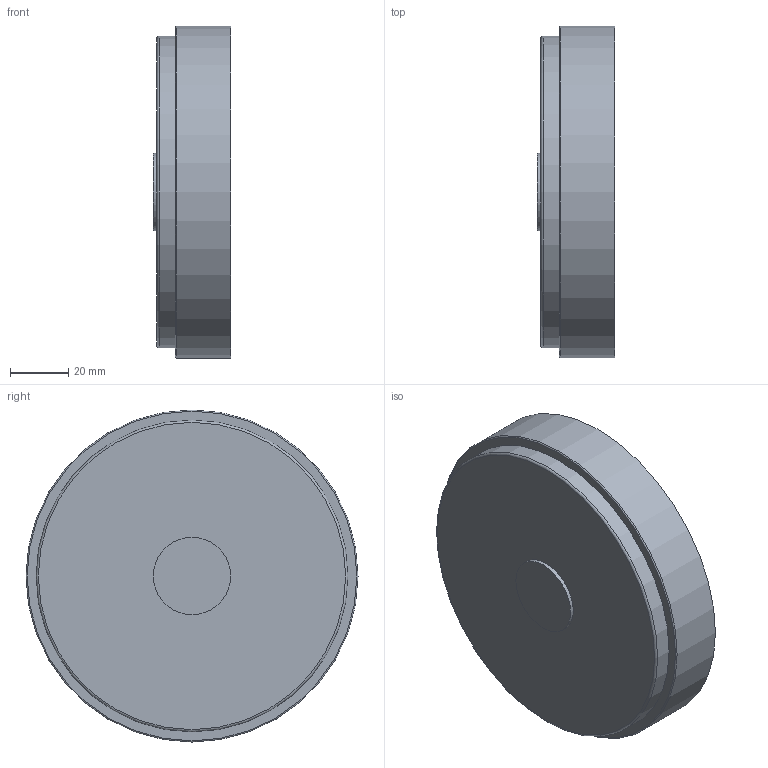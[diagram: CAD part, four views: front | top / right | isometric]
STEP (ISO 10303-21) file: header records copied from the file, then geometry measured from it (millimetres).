
FILE_DESCRIPTION(/* description */ ('VIC STRENGTHIN CAP No E496 w/Tap 1/2 inch BSPT (Concentric)','CAx-IF Rec.Pracs.---Representation and Presentation of Product Manufacturing Information (PMI)---4.0---2014-10-13'),/* implementation_level */ '2;1');
FILE_NAME(/* name */ 'C:\Users\Vjadhav\AppData\Roaming\Autodesk\ApplicationPlugins\Back Up\Victaulic_SS-StrengThin 100_Cap With Tap_No E496 (ST1)\Victaulic_SS-StrengThin 100_Cap With Tap_No E496 (ST1)_04.0x0.75 (100x20).stp',/* time_stamp */ '2020-07-07T18:46:55+05:00',/* author */ ('jheald'),/* organization */ ('Victaulic'),/* preprocessor_version */ 'ST-DEVELOPER v17.2',/* originating_system */ 'Autodesk Inventor 2019',/* authorisation */ '');
FILE_SCHEMA (('AUTOMOTIVE_DESIGN { 1 0 10303 214 3 1 1 }','AP242_MANAGED_MODEL_BASED_3D_ENGINEERING_MIM_LF { 1 0 10303 442 1 1 4 }'));
Length unit declared in the file: inch
Products named in the file (1): E496-04.0x0.75
Bounding box: 26.67 x 114.3 x 114.3 mm (x, y, z)
Volume: 174287.2 mm3; surface area: 32537 mm2
Topology: 1 solids, 1 shells, 11 faces, 26 edges, 20 vertices
Faces by surface type: plane 5, cylinder 4, torus 2
Full cylindrical faces by diameter (mm): 26.67 x1, 102.26 x1, 107.315 x1, 114.3 x1
Entity records: 489 total; most frequent: DIRECTION 98, CARTESIAN_POINT 75, ORIENTED_EDGE 52, AXIS2_PLACEMENT_3D 47, EDGE_CURVE 26, CIRCLE 22, VERTEX_POINT 20, EDGE_LOOP 14
